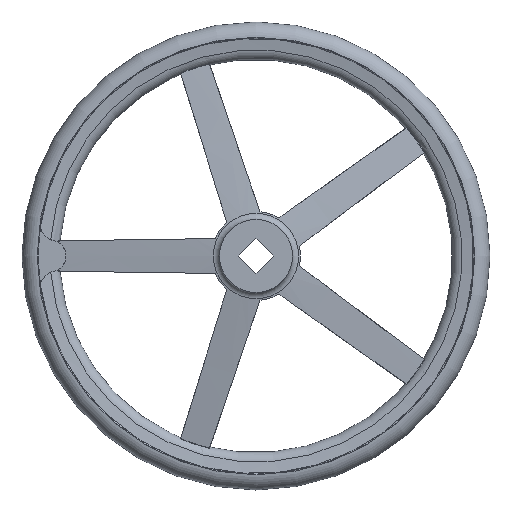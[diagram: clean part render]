
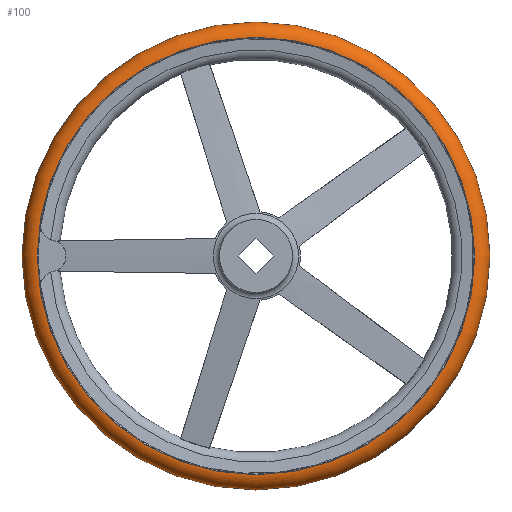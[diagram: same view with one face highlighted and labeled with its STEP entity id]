
A CAD part, left-side view. The second image highlights one B-rep face of the part: STEP entity #100.
In plain terms, the highlighted toroidal (fillet/blend) face has major radius 232.985 mm and minor radius 17.015 mm.
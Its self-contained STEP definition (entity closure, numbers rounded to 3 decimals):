
#100 = ADVANCED_FACE( '', ( #190, #191, #192 ), #193, .T. );
#190 = FACE_BOUND( '', #324, .T. );
#191 = FACE_OUTER_BOUND( '', #325, .T. );
#192 = FACE_OUTER_BOUND( '', #326, .T. );
#193 = TOROIDAL_SURFACE( '', #327, 232.985, 17.015 );
#324 = VERTEX_LOOP( '', #644 );
#325 = EDGE_LOOP( '', ( #645 ) );
#326 = EDGE_LOOP( '', ( #646 ) );
#327 = AXIS2_PLACEMENT_3D( '', #647, #648, #649 );
#644 = VERTEX_POINT( '', #1004 );
#645 = ORIENTED_EDGE( '', *, *, #1005, .T. );
#646 = ORIENTED_EDGE( '', *, *, #1006, .F. );
#647 = CARTESIAN_POINT( '', ( 55., 0., 0. ) );
#648 = DIRECTION( '', ( 1., 0., 0. ) );
#649 = DIRECTION( '', ( 0., 1., 0. ) );
#1004 = CARTESIAN_POINT( '', ( 55., 250., 0. ) );
#1005 = EDGE_CURVE( '', #1251, #1251, #1252, .T. );
#1006 = EDGE_CURVE( '', #1253, #1253, #1254, .T. );
#1251 = VERTEX_POINT( '', #2118 );
#1252 = CIRCLE( '', #2119, 233.708 );
#1253 = VERTEX_POINT( '', #2120 );
#1254 = CIRCLE( '', #2121, 233.708 );
#2118 = CARTESIAN_POINT( '', ( 38., 233.708, 0. ) );
#2119 = AXIS2_PLACEMENT_3D( '', #2386, #2387, #2388 );
#2120 = CARTESIAN_POINT( '', ( 72., 233.708, 0. ) );
#2121 = AXIS2_PLACEMENT_3D( '', #2389, #2390, #2391 );
#2386 = CARTESIAN_POINT( '', ( 38., 0., 0. ) );
#2387 = DIRECTION( '', ( 1., 0., 0. ) );
#2388 = DIRECTION( '', ( 0., 1., 0. ) );
#2389 = CARTESIAN_POINT( '', ( 72., 0., 0. ) );
#2390 = DIRECTION( '', ( 1., 0., 0. ) );
#2391 = DIRECTION( '', ( 0., 1., 0. ) );
